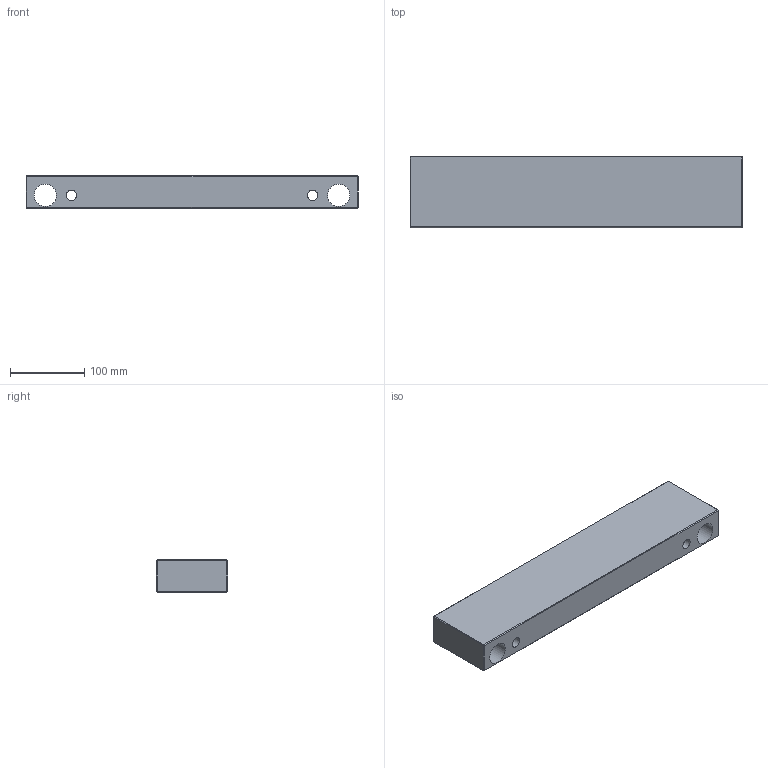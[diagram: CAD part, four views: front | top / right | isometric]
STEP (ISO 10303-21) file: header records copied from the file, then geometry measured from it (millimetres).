
FILE_DESCRIPTION(/* description */ ('STEP AP214'),/* implementation_level */ '2;1');
FILE_NAME(/* name */ 'KM0402464460961730',/* time_stamp */ '2026-06-23T10:44:51+02:00',/* author */ ('License CC BY-ND 4.0'),/* organization */ ('CADENAS'),/* preprocessor_version */ 'ST-DEVELOPER v20',/* originating_system */ 'PARTsolutions',/* authorisation */ ' ');
FILE_SCHEMA (('AUTOMOTIVE_DESIGN {1 0 10303 214 3 1 1}'));
Length unit declared in the file: millimetre
Products named in the file (1): KM0402464460961730
Bounding box: 446 x 96 x 43 mm (x, y, z)
Volume: 1674651.1 mm3; surface area: 153968.8 mm2
Topology: 1 solids, 1 shells, 22 faces, 60 edges, 40 vertices
Faces by surface type: plane 18, cylinder 4
Full cylindrical faces by diameter (mm): 14 x2, 30 x2
Entity records: 718 total; most frequent: CARTESIAN_POINT 119, ORIENTED_EDGE 112, DIRECTION 110, EDGE_CURVE 56, LINE 48, VECTOR 48, VERTEX_POINT 40, EDGE_LOOP 34
